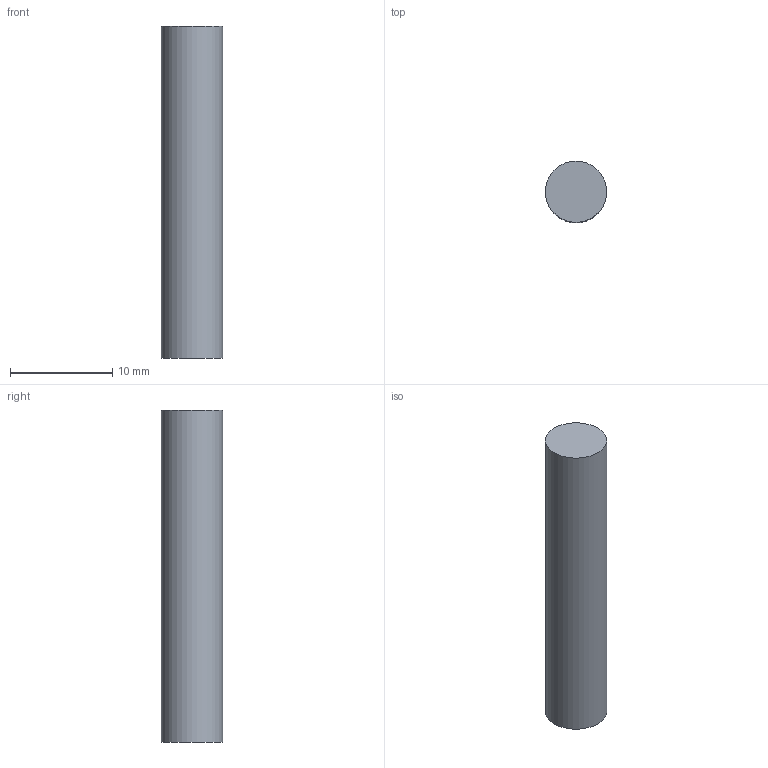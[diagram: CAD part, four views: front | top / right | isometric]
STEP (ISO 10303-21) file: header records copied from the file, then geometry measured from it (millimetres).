
FILE_DESCRIPTION(('Open CASCADE Model'),'2;1');
FILE_NAME('Open CASCADE Shape Model','2026-10-17T22:15:36',('Author'),( 'Open CASCADE'),'Open CASCADE STEP processor 7.9','Open CASCADE 7.9' ,'Unknown');
FILE_SCHEMA(('AUTOMOTIVE_DESIGN { 1 0 10303 214 1 1 1 1 }'));
Length unit declared in the file: millimetre
Products named in the file (1): Open CASCADE STEP translator 7.9 14
Bounding box: 6 x 6 x 32.5 mm (x, y, z)
Volume: 918.9 mm3; surface area: 669.2 mm2
Topology: 1 solids, 1 shells, 3 faces, 3 edges, 2 vertices
Faces by surface type: plane 2, cylinder 1
Full cylindrical faces by diameter (mm): 6 x1
Entity records: 108 total; most frequent: DIRECTION 19, CARTESIAN_POINT 15, AXIS2_PLACEMENT_3D 6, ORIENTED_EDGE 6, PCURVE 6, DEFINITIONAL_REPRESENTATION 6, LINE 5, VECTOR 5
